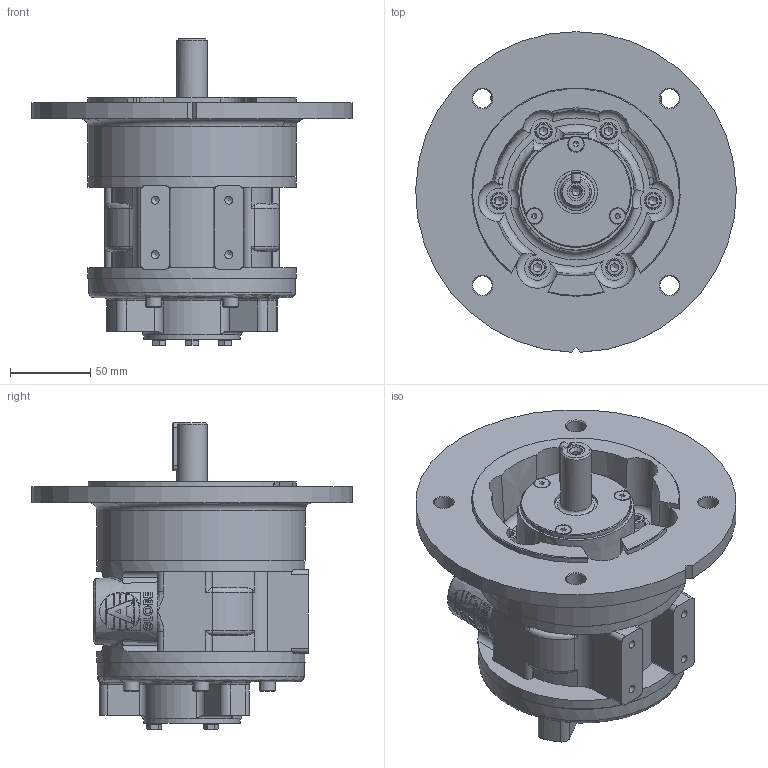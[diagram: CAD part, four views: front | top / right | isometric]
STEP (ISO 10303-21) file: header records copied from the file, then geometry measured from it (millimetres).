
FILE_DESCRIPTION (( 'STEP AP214' ), '1' );
FILE_NAME ('VS6C Defeature + Logo.STEP', '2023-05-23T10:31:16', ( '' ), ( '' ), 'SwSTEP 2.0', 'SolidWorks 2022', '' );
FILE_SCHEMA (( 'AUTOMOTIVE_DESIGN' ));
Length unit declared in the file: millimetre
Products named in the file (1): VS6C Defeature + Logo
Bounding box: 199.98 x 199.96 x 191.25 mm (x, y, z)
Volume: 1603861.5 mm3; surface area: 171503.1 mm2
Topology: 1 solids, 1 shells, 760 faces, 1898 edges, 1178 vertices
Faces by surface type: plane 331, cylinder 130, bspline 127, cone 112, torus 53, sphere 7
Full cylindrical faces by diameter (mm): 5 x5, 8 x3, 9.64 x3, 10 x12, 11 x7, 12 x4, 19 x1, 20 x2, 24.117 x2, 27 x1, 60 x1, 69 x1, 128 x2, 129 x1, 130 x3
Entity records: 45362 total; most frequent: CARTESIAN_POINT 24900, ORIENTED_EDGE 3458, DIRECTION 2957, EDGE_CURVE 1729, AXIS2_PLACEMENT_3D 1153, VERTEX_POINT 1122, EDGE_LOOP 921, FACE_OUTER_BOUND 810
